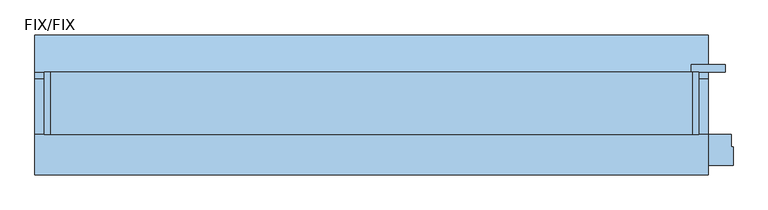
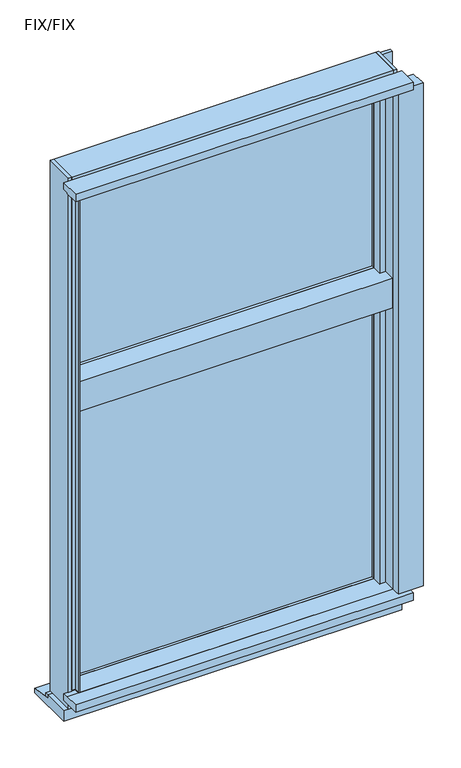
"""IFC4 building model written with IfcOpenShell, lengths in millimetres: window geometry, FNSⅡ100R_個別防火_RC枠_段窓 : FIX/FIX."""

import ifcopenshell
import ifcopenshell.guid

model = None  # the IFC model being written
_history = None  # IfcOwnerHistory: only IFC2X3 demands one
_inside = {}  # id of a spatial element -> (the spatial element, [elements in it])
_under = {}  # id of a project, library or spatial element -> (it, [spatial elements below it])
_declared = {}  # id of a project -> (the project, [libraries it declares])
_typed = {}  # id of a type object -> (the type object, [elements of that type])
_made_of = {}  # id of a material, layer set ... -> (it, [elements and type objects made of it])


def new_model(schema):
    """Start an empty IFC model of exactly this schema.

    Asked for "IFC4X3", IfcOpenShell would pick the latest addendum, in which some entities
    have other attributes; the version numbers below select the first issue.
    IFC2X3 requires an IfcOwnerHistory on every rooted entity: one is made here for all.
    """
    global model, _history
    if schema == "IFC4X3":
        model = ifcopenshell.file(schema_version=(4, 3, 0, 0))
    else:
        model = ifcopenshell.file(schema=schema)
    _inside.clear()
    _under.clear()
    _declared.clear()
    _typed.clear()
    _made_of.clear()
    _history = None
    if model.schema == "IFC2X3":
        org = make("IfcOrganization", Name="unknown")
        user = make(
            "IfcPersonAndOrganization",
            ThePerson=make("IfcPerson", FamilyName="unknown"),
            TheOrganization=org,
        )
        app = make(
            "IfcApplication",
            ApplicationDeveloper=org,
            Version="unknown",
            ApplicationFullName="unknown",
            ApplicationIdentifier="unknown",
        )
        _history = make(
            "IfcOwnerHistory",
            OwningUser=user,
            OwningApplication=app,
            ChangeAction="ADDED",
            CreationDate=0,
        )
    return model


def make(cls, **values):
    """One entity of the class cls with the attributes given. An attribute that is None is left unset."""
    return model.create_entity(
        cls, **{name: value for name, value in values.items() if value is not None}
    )


def rooted(cls, **values):
    """An entity with a GlobalId (a new one), such as an element, a storey or a relation."""
    return make(cls, GlobalId=ifcopenshell.guid.new(), OwnerHistory=_history, **values)


def si_unit(unit_type, name, prefix=None):
    """IfcSIUnit, for example si_unit("LENGTHUNIT", "METRE", prefix="MILLI")."""
    return make("IfcSIUnit", UnitType=unit_type, Prefix=prefix, Name=name)


def assignment(units):
    """IfcUnitAssignment: the units of a project."""
    return None if units is None else make("IfcUnitAssignment", Units=units)


def point(xyz):
    """IfcCartesianPoint."""
    return None if xyz is None else make("IfcCartesianPoint", Coordinates=xyz)


def direction(xyz):
    """IfcDirection."""
    return None if xyz is None else make("IfcDirection", DirectionRatios=xyz)


def frame(location, z_axis=None, x_axis=None):
    """IfcAxis2Placement3D, a coordinate frame: its origin and axes. An axis left out is left unset."""
    return make(
        "IfcAxis2Placement3D",
        Location=point(location),
        Axis=direction(z_axis),
        RefDirection=direction(x_axis),
    )


def origin():
    """The frame at (0, 0, 0) with its axes left unset."""
    return frame((0.0, 0.0, 0.0))


def place(relative_to, where):
    """IfcLocalPlacement: puts the frame where relative to a parent placement (None: the world)."""
    return make(
        "IfcLocalPlacement", PlacementRelTo=relative_to, RelativePlacement=where
    )


def context(
    kind, dimensions, precision=None, world=None, true_north=None, identifier=None
):
    """IfcGeometricRepresentationContext, for example the 3D "Model" context."""
    return make(
        "IfcGeometricRepresentationContext",
        ContextIdentifier=identifier,
        ContextType=kind,
        CoordinateSpaceDimension=dimensions,
        Precision=precision,
        WorldCoordinateSystem=world,
        TrueNorth=true_north,
    )


def project(units=None, contexts=None):
    """IfcProject with its units and contexts."""
    return rooted(
        "IfcProject",
        Name="project",
        RepresentationContexts=contexts,
        UnitsInContext=assignment(units),
    )


def spatial(cls, under=None, at=None, **own):
    """A site, building, storey or space (cls), placed at a placement, below another one or the project."""
    s = rooted(cls, ObjectPlacement=at, **own)
    if under is not None:
        _under.setdefault(under.id(), (under, []))[1].append(s)
    return s


def polyline(points):
    """IfcPolyline through the points."""
    return make("IfcPolyline", Points=[point(p) for p in points])


def outline(outer, holes=None, kind="AREA"):
    """IfcArbitraryClosedProfileDef: a profile drawn as a closed curve; with holes, ...WithVoids."""
    if holes is None:
        return make("IfcArbitraryClosedProfileDef", ProfileType=kind, OuterCurve=outer)
    return make(
        "IfcArbitraryProfileDefWithVoids",
        ProfileType=kind,
        OuterCurve=outer,
        InnerCurves=holes,
    )


def extrude(swept, where, along, depth):
    """IfcExtrudedAreaSolid: the profile swept, set in the frame where, extruded along a direction by depth."""
    return make(
        "IfcExtrudedAreaSolid",
        SweptArea=swept,
        Position=where,
        ExtrudedDirection=direction(along),
        Depth=depth,
    )


def faces_of(points, faces, orient=None, outer=None):
    """IfcFace entities. A face is a list of loops; a loop is a list of indices into points, from 0.

    orient and outer hold one flag for each loop. By default every Orientation is true, the
    first loop of a face is its IfcFaceOuterBound and the others are IfcFaceBound.
    """
    made = []
    for i, loops in enumerate(faces):
        bounds = []
        for j, loop in enumerate(loops):
            is_outer = j == 0 if outer is None else outer[i][j]
            bounds.append(
                make(
                    "IfcFaceOuterBound" if is_outer else "IfcFaceBound",
                    Bound=make("IfcPolyLoop", Polygon=[points[k] for k in loop]),
                    Orientation=True if orient is None else orient[i][j],
                )
            )
        made.append(make("IfcFace", Bounds=bounds))
    return made


def faceted_brep(points, faces, orient=None, outer=None, voids=None):
    """IfcFacetedBrep: a solid bounded by flat faces; with voids (closed shells), ...WithVoids."""
    shared = [point(p) for p in points]
    hull = make("IfcClosedShell", CfsFaces=faces_of(shared, faces, orient, outer))
    if voids is None:
        return make("IfcFacetedBrep", Outer=hull)
    return make(
        "IfcFacetedBrepWithVoids",
        Outer=hull,
        Voids=[
            make(cls, CfsFaces=faces_of(shared, fs, o, b)) for cls, fs, o, b in voids
        ],
    )


def shape(context_of_items, identifier, shape_type, items):
    """IfcShapeRepresentation: the items that make up one representation, for example the "Body"."""
    return make(
        "IfcShapeRepresentation",
        ContextOfItems=context_of_items,
        RepresentationIdentifier=identifier,
        RepresentationType=shape_type,
        Items=items,
    )


def source(mapping_origin, context_of_items, identifier, shape_type, items):
    """IfcRepresentationMap: a shape defined once, which mapped items show again and again."""
    return make(
        "IfcRepresentationMap",
        MappingOrigin=mapping_origin,
        MappedRepresentation=shape(context_of_items, identifier, shape_type, items),
    )


def transform(
    local_origin,
    x_axis=None,
    y_axis=None,
    z_axis=None,
    scale=None,
    scale2=None,
    scale3=None,
    uniform=True,
):
    """IfcCartesianTransformationOperator3D, or its non-uniform kind. x_axis, y_axis, z_axis: its Axis1, 2, 3."""
    if uniform:
        return make(
            "IfcCartesianTransformationOperator3D",
            Axis1=direction(x_axis),
            Axis2=direction(y_axis),
            LocalOrigin=point(local_origin),
            Scale=scale,
            Axis3=direction(z_axis),
        )
    return make(
        "IfcCartesianTransformationOperator3DnonUniform",
        Axis1=direction(x_axis),
        Axis2=direction(y_axis),
        LocalOrigin=point(local_origin),
        Scale=scale,
        Axis3=direction(z_axis),
        Scale2=scale2,
        Scale3=scale3,
    )


def mapped(mapping_source, mapping_target):
    """IfcMappedItem: shows the shape of a source again, moved by a transform."""
    return make(
        "IfcMappedItem", MappingSource=mapping_source, MappingTarget=mapping_target
    )


def made_of(thing, what):
    """Note that an element or type object is made of a material, layer set ...; save() writes the relation."""
    if what is not None:
        _made_of.setdefault(what.id(), (what, []))[1].append(thing)
    return thing


def element(
    cls,
    number,
    at=None,
    inside=None,
    cuts=None,
    type_object=None,
    material=None,
    context=None,
    identifier="Body",
    shape_type=None,
    held_by="IfcProductDefinitionShape",
    body=None,
    shapes=None,
    **own,
):
    """One element of the class cls, such as IfcWall. Its Tag is "e" and its number.

    at: its placement. inside: the storey or other place that contains it. cuts: it is an
    opening in that element (IfcRelVoidsElement). A single representation is given by context,
    identifier, shape_type and body (its items); several are given by shapes. held_by: the class
    of the entity that holds the representations. save() writes the other relations.
    """
    e = rooted(cls, Tag="e%d" % number, ObjectPlacement=at, **own)
    if body is not None:
        shapes = [shape(context, identifier, shape_type, body)]
    if shapes is not None:
        e.Representation = make(held_by, Representations=shapes)
    if inside is not None:
        _inside.setdefault(inside.id(), (inside, []))[1].append(e)
    if cuts is not None:
        rooted(
            "IfcRelVoidsElement", RelatingBuildingElement=cuts, RelatedOpeningElement=e
        )
    if type_object is not None:
        _typed.setdefault(type_object.id(), (type_object, []))[1].append(e)
    return made_of(e, material)


def aggregate(whole, parts):
    """IfcRelAggregates: a whole, such as a stair, and the parts it consists of."""
    return rooted("IfcRelAggregates", RelatingObject=whole, RelatedObjects=parts)


def save(model, path):
    """Write the relations noted so far, then the file.

    IfcRelAggregates (storeys below a building ...), IfcRelContainedInSpatialStructure (elements
    in a storey), IfcRelDefinesByType, IfcRelAssociatesMaterial and IfcRelDeclares: one each for
    every whole, place, type object, material and project.
    """
    for whole, parts in _under.values():
        aggregate(whole, parts)
    for where, things in _inside.values():
        rooted(
            "IfcRelContainedInSpatialStructure",
            RelatedElements=things,
            RelatingStructure=where,
        )
    for kind, things in _typed.values():
        rooted("IfcRelDefinesByType", RelatedObjects=things, RelatingType=kind)
    for what, things in _made_of.values():
        rooted("IfcRelAssociatesMaterial", RelatedObjects=things, RelatingMaterial=what)
    for by, libraries in _declared.values():
        rooted("IfcRelDeclares", RelatingContext=by, RelatedDefinitions=libraries)
    model.write(path)


def fix_fix_aadb638c(model_context):
    return source(origin(), model_context, "Body", "SolidModel", [
        extrude(outline(polyline([(-480.0, 20.6), (480.0, 20.6), (480.0, 14.6), (-480.0, 14.6), (-480.0, 20.6)])), frame((0.0, 0.0, 1950.0), z_axis=(0.0, 0.0, 1.0), x_axis=(1.0, 0.0, 0.0)), (0.0, 0.0, 1.0), 650.0),
        extrude(outline(polyline([(-480.0, 38.6), (480.0, 38.6), (480.0, 32.6), (-480.0, 32.6), (-480.0, 38.6)])), frame((0.0, 0.0, 1950.0), z_axis=(0.0, 0.0, 1.0), x_axis=(1.0, 0.0, 0.0)), (0.0, 0.0, 1.0), 650.0),
        extrude(outline(polyline([(-480.0, 20.6), (480.0, 20.6), (480.0, 14.6), (-480.0, 14.6), (-480.0, 20.6)])), frame((0.0, 0.0, 900.0), z_axis=(0.0, 0.0, 1.0), x_axis=(1.0, 0.0, 0.0)), (0.0, 0.0, 1.0), 950.0),
        extrude(outline(polyline([(-480.0, 38.6), (480.0, 38.6), (480.0, 32.6), (-480.0, 32.6), (-480.0, 38.6)])), frame((0.0, 0.0, 900.0), z_axis=(0.0, 0.0, 1.0), x_axis=(1.0, 0.0, 0.0)), (0.0, 0.0, 1.0), 950.0),
        faceted_brep([(-525.0, 55.0, 840.0), (-515.0, 55.0, 840.0), (-515.0, -45.0, 840.0), (-525.0, -45.0, 840.0), (-515.0, 55.0, 2635.0), (-515.0, -45.0, 2635.0), (-515.0, 55.0, 900.0), (-515.0, 5.0, 900.0), (-515.0, 5.0, 2600.0), (-515.0, 55.0, 2600.0), (-525.0, -45.0, 2635.0), (-480.0, 55.0, 900.0), (-480.0, 5.0, 900.0), (-480.0, 55.0, 2600.0), (-480.0, 5.0, 2600.0), (-525.0, 55.0, 2635.0)], [[[0, 1, 2, 3]], [[4, 5, 2, 1, 6, 7, 8, 9]], [[5, 10, 3, 2]], [[11, 12, 7, 6]], [[13, 14, 12, 11]], [[15, 10, 5, 4]], [[15, 4, 9, 13, 11, 6, 1, 0]], [[10, 15, 0, 3]], [[14, 8, 7, 12]], [[13, 9, 8, 14]]]),
        faceted_brep([(525.0, 55.0, 840.0), (525.0, -45.0, 840.0), (515.0, -45.0, 840.0), (515.0, 55.0, 840.0), (525.0, 55.0, 2635.0), (525.0, -45.0, 2635.0), (515.0, -45.0, 2635.0), (515.0, 55.0, 2635.0), (515.0, 55.0, 2600.0), (515.0, 5.0, 2600.0), (515.0, 5.0, 900.0), (515.0, 55.0, 900.0), (480.0, 5.0, 900.0), (480.0, 55.0, 900.0), (480.0, 55.0, 2600.0), (480.0, 5.0, 2600.0)], [[[0, 1, 2, 3]], [[4, 5, 1, 0]], [[6, 7, 8, 9, 10, 11, 3, 2]], [[10, 12, 13, 11]], [[4, 7, 6, 5]], [[5, 6, 2, 1]], [[7, 4, 0, 3, 11, 13, 14, 8]], [[15, 14, 13, 12]], [[9, 15, 12, 10]], [[8, 14, 15, 9]]]),
        extrude(outline(polyline([(500.0, -65.0), (500.0, -26.5), (480.0, -26.5), (480.0, 5.0), (515.0, 5.0), (515.0, -45.0), (503.0, -45.0), (503.0, -65.0), (500.0, -65.0)])), frame((0.0, 0.0, 900.0), z_axis=(0.0, 0.0, 1.0), x_axis=(1.0, 0.0, 0.0)), (0.0, 0.0, 1.0), 1700.0),
        extrude(outline(polyline([(-515.0, -45.0), (-515.0, 5.0), (-480.0, 5.0), (-480.0, -26.5), (-500.0, -26.5), (-500.0, -65.0), (-503.0, -65.0), (-503.0, -45.0), (-515.0, -45.0)])), frame((0.0, 0.0, 900.0), z_axis=(0.0, 0.0, 1.0), x_axis=(1.0, 0.0, 0.0)), (0.0, 0.0, 1.0), 1700.0),
        extrude(outline(polyline([(-45.0, 884.0), (-45.0, 897.0), (-65.0, 897.0), (-65.0, 900.0), (5.0, 900.0), (5.0, 884.0), (-45.0, 884.0)])), frame((-503.0, 0.0, 0.0), z_axis=(1.0, 0.0, 0.0), x_axis=(0.0, 1.0, 0.0)), (0.0, 0.0, 1.0), 1006.0),
        extrude(outline(polyline([(55.0, 840.0), (-45.0, 840.0), (-45.0, 884.0), (5.0, 884.0), (5.0, 900.0), (55.0, 900.0), (55.0, 870.0), (36.0, 870.0), (36.0, 850.0), (55.0, 850.0), (55.0, 840.0)])), frame((-515.0, 0.0, 0.0), z_axis=(1.0, 0.0, 0.0), x_axis=(0.0, 1.0, 0.0)), (0.0, 0.0, 1.0), 1030.0),
        extrude(outline(polyline([(5.0, 1936.0), (-45.0, 1936.0), (-45.0, 1865.0), (5.0, 1865.0), (5.0, 1850.0), (-65.0, 1850.0), (-65.0, 1950.0), (5.0, 1950.0), (5.0, 1936.0)])), frame((-500.0, 0.0, 0.0), z_axis=(1.0, 0.0, 0.0), x_axis=(0.0, 1.0, 0.0)), (0.0, 0.0, 1.0), 1000.0),
        extrude(outline(polyline([(55.0, 1850.0), (5.0, 1850.0), (5.0, 1865.0), (-45.0, 1865.0), (-45.0, 1936.0), (5.0, 1936.0), (5.0, 1950.0), (55.0, 1950.0), (55.0, 1920.0), (36.0, 1920.0), (36.0, 1904.0), (45.5, 1900.0), (55.0, 1900.0), (55.0, 1850.0)])), frame((-480.0, 0.0, 0.0), z_axis=(1.0, 0.0, 0.0), x_axis=(0.0, 1.0, 0.0)), (0.0, 0.0, 1.0), 960.0),
        extrude(outline(polyline([(5.0, 2600.0), (-65.0, 2600.0), (-65.0, 2603.0), (-45.0, 2603.0), (-45.0, 2615.0), (5.0, 2615.0), (5.0, 2600.0)])), frame((-503.0, 0.0, 0.0), z_axis=(1.0, 0.0, 0.0), x_axis=(0.0, 1.0, 0.0)), (0.0, 0.0, 1.0), 1006.0),
        extrude(outline(polyline([(55.0, 2600.0), (5.0, 2600.0), (5.0, 2615.0), (-45.0, 2615.0), (-45.0, 2635.0), (55.0, 2635.0), (55.0, 2600.0)])), frame((-515.0, 0.0, 0.0), z_axis=(1.0, 0.0, 0.0), x_axis=(0.0, 1.0, 0.0)), (0.0, 0.0, 1.0), 1030.0),
        extrude(outline(polyline([(-110.0, 900.0), (-65.0, 900.0), (-65.0, 897.0), (-45.0, 897.0), (-45.0, 875.0), (-110.0, 875.0), (-110.0, 900.0)])), frame((-540.0, 0.0, 0.0), z_axis=(1.0, 0.0, 0.0), x_axis=(0.0, 1.0, 0.0)), (0.0, 0.0, 1.0), 1080.0),
        extrude(outline(polyline([(45.0, 840.0), (55.0, 840.0), (55.0, 828.4285714), (45.0, 830.0), (45.0, 840.0)])), frame((-540.0, 0.0, 0.0), z_axis=(1.0, 0.0, 0.0), x_axis=(0.0, 1.0, 0.0)), (0.0, 0.0, 1.0), 1080.0),
        extrude(outline(polyline([(-45.0, 804.0), (-45.0, 840.0), (45.0, 840.0), (45.0, 830.0), (115.0, 819.0), (115.0, 804.0), (-45.0, 804.0)])), frame((-540.0, 0.0, 0.0), z_axis=(1.0, 0.0, 0.0), x_axis=(0.0, 1.0, 0.0)), (0.0, 0.0, 1.0), 1080.0),
        extrude(outline(polyline([(503.0, -65.0), (503.0, -45.0), (577.0, -45.0), (577.0, -65.0), (580.0, -65.0), (580.0, -95.0), (500.0, -95.0), (500.0, -65.0), (503.0, -65.0)])), frame((0.0, 0.0, 900.0), z_axis=(0.0, 0.0, 1.0), x_axis=(1.0, 0.0, 0.0)), (0.0, 0.0, 1.0), 1700.0),
        extrude(outline(polyline([(567.5, 55.0), (512.5, 55.0), (512.5, 67.0), (567.5, 67.0), (567.5, 55.0)])), frame((0.0, 0.0, 840.0), z_axis=(0.0, 0.0, 1.0), x_axis=(1.0, 0.0, 0.0)), (0.0, 0.0, 1.0), 1780.0),
        extrude(outline(polyline([(-110.0, 2625.0), (-45.0, 2625.0), (-45.0, 2603.0), (-65.0, 2603.0), (-65.0, 2600.0), (-110.0, 2600.0), (-110.0, 2625.0)])), frame((-540.0, 0.0, 0.0), z_axis=(1.0, 0.0, 0.0), x_axis=(0.0, 1.0, 0.0)), (0.0, 0.0, 1.0), 1080.0),
    ])


if __name__ == "__main__":
    model = new_model("IFC4")
    model_context = context("Model", 3, world=origin())
    ifc_project = project(units=[si_unit("LENGTHUNIT", "METRE", prefix="MILLI")], contexts=[model_context])
    site = spatial("IfcSite", under=ifc_project)
    building = spatial("IfcBuilding", under=site)
    placement = place(None, origin())
    fix_fix_shape = fix_fix_aadb638c(model_context)
    element("IfcWindow", 1, ObjectType="FNSⅡ100R_個別防火_RC枠_段窓 : FIX/FIX", at=placement, inside=building, context=model_context, shape_type="MappedRepresentation", body=[
        mapped(fix_fix_shape, transform((0.0, 0.0, 0.0), x_axis=(1.0, 0.0, 0.0), y_axis=(0.0, 1.0, 0.0), z_axis=(0.0, 0.0, 1.0))),
    ])
    save(model, "model.ifc")
